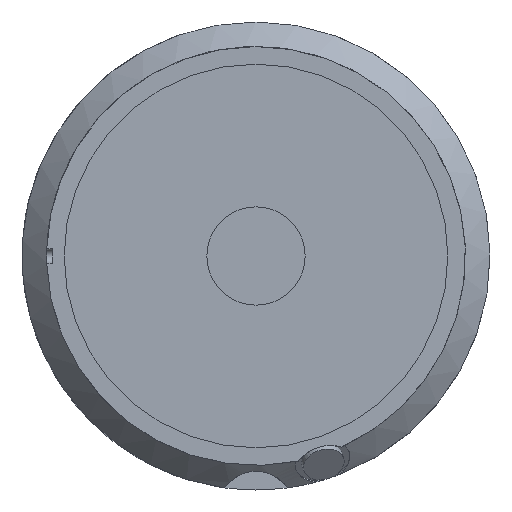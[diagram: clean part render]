
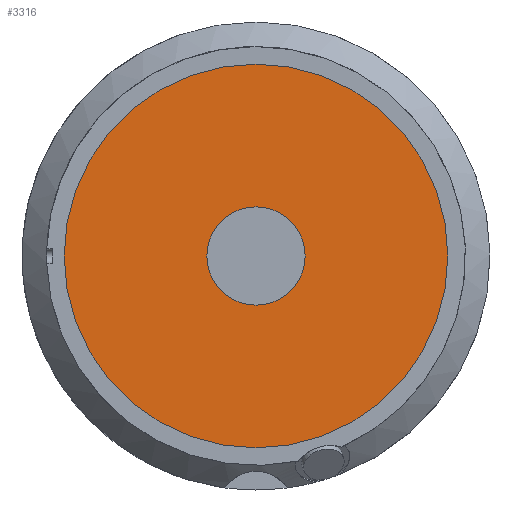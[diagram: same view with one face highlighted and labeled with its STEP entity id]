
A CAD part, left-side view. The second image highlights one B-rep face of the part: STEP entity #3316.
In plain terms, the highlighted planar face has unit normal (-1, 0, 0).
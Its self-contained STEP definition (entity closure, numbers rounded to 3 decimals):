
#12 = CIRCLE ( 'NONE', #331, 82. ) ;
#76 = FACE_OUTER_BOUND ( 'NONE', #3493, .T. ) ;
#331 = AXIS2_PLACEMENT_3D ( 'NONE', #1177, #3410, #3067 ) ;
#380 = FACE_BOUND ( 'NONE', #1387, .T. ) ;
#409 = ORIENTED_EDGE ( 'NONE', *, *, #1912, .T. ) ;
#646 = DIRECTION ( 'NONE',  ( 0., 0., 1. ) ) ;
#1127 = VERTEX_POINT ( 'NONE', #2136 ) ;
#1177 = CARTESIAN_POINT ( 'NONE',  ( 2087.5, 0., 2010. ) ) ;
#1223 = EDGE_CURVE ( 'NONE', #2263, #2263, #12, .T. ) ;
#1343 = CARTESIAN_POINT ( 'NONE',  ( 2087.5, 0., 2031. ) ) ;
#1387 = EDGE_LOOP ( 'NONE', ( #409 ) ) ;
#1665 = PLANE ( 'NONE',  #2733 ) ;
#1811 = CIRCLE ( 'NONE', #3980, 21. ) ;
#1912 = EDGE_CURVE ( 'NONE', #1127, #1127, #1811, .T. ) ;
#2136 = CARTESIAN_POINT ( 'NONE',  ( 2087.5, 0., 2031. ) ) ;
#2263 = VERTEX_POINT ( 'NONE', #2661 ) ;
#2311 = DIRECTION ( 'NONE',  ( -1., 0., 0. ) ) ;
#2580 = DIRECTION ( 'NONE',  ( 1., 0., 0. ) ) ;
#2661 = CARTESIAN_POINT ( 'NONE',  ( 2087.5, 0., 2092. ) ) ;
#2733 = AXIS2_PLACEMENT_3D ( 'NONE', #1343, #2311, #3601 ) ;
#3067 = DIRECTION ( 'NONE',  ( 0., 0., 1. ) ) ;
#3316 = ADVANCED_FACE ( 'NONE', ( #76, #380 ), #1665, .T. ) ;
#3410 = DIRECTION ( 'NONE',  ( 1., 0., 0. ) ) ;
#3493 = EDGE_LOOP ( 'NONE', ( #3874 ) ) ;
#3523 = CARTESIAN_POINT ( 'NONE',  ( 2087.5, 0., 2010. ) ) ;
#3601 = DIRECTION ( 'NONE',  ( 0., 0., -1. ) ) ;
#3874 = ORIENTED_EDGE ( 'NONE', *, *, #1223, .F. ) ;
#3980 = AXIS2_PLACEMENT_3D ( 'NONE', #3523, #2580, #646 ) ;
